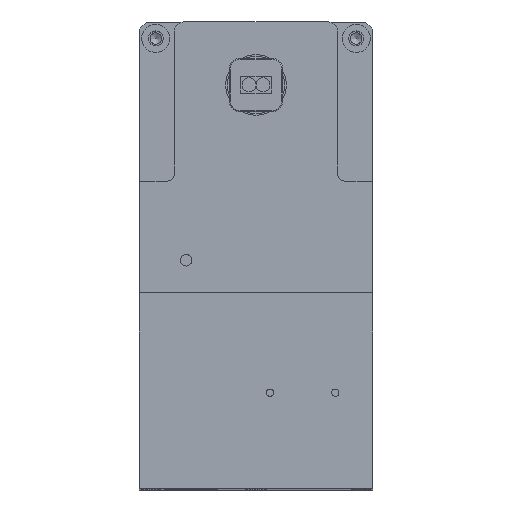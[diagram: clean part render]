
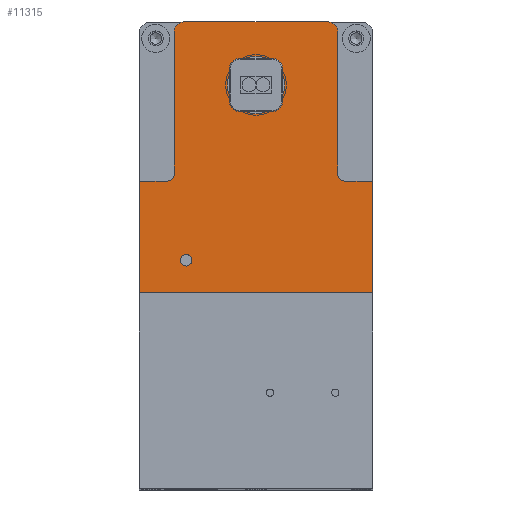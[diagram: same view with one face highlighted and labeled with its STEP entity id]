
A CAD part, top view. The second image highlights one B-rep face of the part: STEP entity #11315.
In plain terms, the highlighted planar face has unit normal (0, 0, 1) as drawn and (0, 0, -1) by its records, which use the part's own axes.
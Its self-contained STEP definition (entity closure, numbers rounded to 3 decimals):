
#10524=CARTESIAN_POINT('',(38.77,-51.11,-45.0));
#10525=VERTEX_POINT('',#10524);
#10526=CARTESIAN_POINT('',(40.0,-51.11,-45.0));
#10527=DIRECTION('',(0.0,0.0,1.0));
#10528=DIRECTION('',(-1.0,0.0,0.0));
#10529=AXIS2_PLACEMENT_3D('',#10526,#10527,#10528);
#10530=CIRCLE('',#10529,1.23);
#10531=EDGE_CURVE('',#10525,#10525,#10530,.T.);
#10775=CARTESIAN_POINT('',(0.0,-34.11,-45.0));
#10776=VERTEX_POINT('',#10775);
#10783=CARTESIAN_POINT('',(0.,-58.11,-45.0));
#10784=VERTEX_POINT('',#10783);
#10785=CARTESIAN_POINT('',(0.0,-34.11,-45.0));
#10786=DIRECTION('',(0.0,-1.0,0.0));
#10787=VECTOR('',#10786,24.0);
#10788=LINE('',#10785,#10787);
#10789=EDGE_CURVE('',#10776,#10784,#10788,.T.);
#10854=CARTESIAN_POINT('',(9.5,0.0,-45.0));
#10855=VERTEX_POINT('',#10854);
#10893=CARTESIAN_POINT('',(40.5,0.0,-45.0));
#10894=VERTEX_POINT('',#10893);
#10901=CARTESIAN_POINT('',(40.5,0.0,-45.0));
#10902=DIRECTION('',(-1.0,0.0,0.0));
#10903=VECTOR('',#10902,31.);
#10904=LINE('',#10901,#10903);
#10905=EDGE_CURVE('',#10894,#10855,#10904,.T.);
#10946=CARTESIAN_POINT('',(50.0,-34.11,-45.0));
#10947=VERTEX_POINT('',#10946);
#10971=CARTESIAN_POINT('',(50.0,-58.11,-45.0));
#10972=VERTEX_POINT('',#10971);
#10979=CARTESIAN_POINT('',(50.0,-58.11,-45.0));
#10980=DIRECTION('',(0.0,1.0,0.0));
#10981=VECTOR('',#10980,24.0);
#10982=LINE('',#10979,#10981);
#10983=EDGE_CURVE('',#10972,#10947,#10982,.T.);
#11017=CARTESIAN_POINT('',(0.,-58.11,-45.0));
#11018=DIRECTION('',(1.0,0.0,0.0));
#11019=VECTOR('',#11018,50.);
#11020=LINE('',#11017,#11019);
#11021=EDGE_CURVE('',#10784,#10972,#11020,.T.);
#11206=CARTESIAN_POINT('',(7.5,-2.,-45.0));
#11207=VERTEX_POINT('',#11206);
#11208=CARTESIAN_POINT('',(9.5,-2.0,-45.0));
#11209=DIRECTION('',(0.0,0.0,1.0));
#11210=DIRECTION('',(-0.707,0.707,0.0));
#11211=AXIS2_PLACEMENT_3D('',#11208,#11209,#11210);
#11212=CIRCLE('',#11211,2.);
#11213=EDGE_CURVE('',#10855,#11207,#11212,.T.);
#11234=CARTESIAN_POINT('',(25.0,-29.055,-45.0));
#11235=DIRECTION('',(0.0,0.0,1.0));
#11236=DIRECTION('',(1.0,0.0,0.0));
#11237=AXIS2_PLACEMENT_3D('',#11234,#11235,#11236);
#11238=PLANE('',#11237);
#11239=ORIENTED_EDGE('',*,*,#11213,.F.);
#11240=ORIENTED_EDGE('',*,*,#10905,.F.);
#11241=CARTESIAN_POINT('',(42.5,-2.,-45.0));
#11242=VERTEX_POINT('',#11241);
#11243=CARTESIAN_POINT('',(40.5,-2.,-45.0));
#11244=DIRECTION('',(0.0,0.0,1.0));
#11245=DIRECTION('',(0.707,0.707,0.0));
#11246=AXIS2_PLACEMENT_3D('',#11243,#11244,#11245);
#11247=CIRCLE('',#11246,2.);
#11248=EDGE_CURVE('',#11242,#10894,#11247,.T.);
#11249=ORIENTED_EDGE('',*,*,#11248,.F.);
#11250=CARTESIAN_POINT('',(42.5,-32.61,-45.0));
#11251=VERTEX_POINT('',#11250);
#11252=CARTESIAN_POINT('',(42.5,-2.,-45.0));
#11253=DIRECTION('',(0.0,-1.0,0.0));
#11254=VECTOR('',#11253,30.61);
#11255=LINE('',#11252,#11254);
#11256=EDGE_CURVE('',#11242,#11251,#11255,.T.);
#11257=ORIENTED_EDGE('',*,*,#11256,.T.);
#11258=CARTESIAN_POINT('',(44.0,-34.11,-45.0));
#11259=VERTEX_POINT('',#11258);
#11260=CARTESIAN_POINT('',(44.0,-32.61,-45.0));
#11261=DIRECTION('',(0.0,0.0,-1.));
#11262=DIRECTION('',(-0.707,-0.707,0.0));
#11263=AXIS2_PLACEMENT_3D('',#11260,#11261,#11262);
#11264=CIRCLE('',#11263,1.5);
#11265=EDGE_CURVE('',#11259,#11251,#11264,.T.);
#11266=ORIENTED_EDGE('',*,*,#11265,.F.);
#11267=CARTESIAN_POINT('',(44.0,-34.11,-45.0));
#11268=DIRECTION('',(1.0,0.0,0.0));
#11269=VECTOR('',#11268,6.0);
#11270=LINE('',#11267,#11269);
#11271=EDGE_CURVE('',#11259,#10947,#11270,.T.);
#11272=ORIENTED_EDGE('',*,*,#11271,.T.);
#11273=ORIENTED_EDGE('',*,*,#10983,.F.);
#11274=ORIENTED_EDGE('',*,*,#11021,.F.);
#11275=ORIENTED_EDGE('',*,*,#10789,.F.);
#11276=CARTESIAN_POINT('',(6.,-34.11,-45.0));
#11277=VERTEX_POINT('',#11276);
#11278=CARTESIAN_POINT('',(0.0,-34.11,-45.0));
#11279=DIRECTION('',(1.0,0.0,0.0));
#11280=VECTOR('',#11279,6.);
#11281=LINE('',#11278,#11280);
#11282=EDGE_CURVE('',#10776,#11277,#11281,.T.);
#11283=ORIENTED_EDGE('',*,*,#11282,.T.);
#11284=CARTESIAN_POINT('',(7.5,-32.61,-45.0));
#11285=VERTEX_POINT('',#11284);
#11286=CARTESIAN_POINT('',(6.,-32.61,-45.0));
#11287=DIRECTION('',(0.0,0.0,-1.0));
#11288=DIRECTION('',(0.707,-0.707,0.0));
#11289=AXIS2_PLACEMENT_3D('',#11286,#11287,#11288);
#11290=CIRCLE('',#11289,1.5);
#11291=EDGE_CURVE('',#11285,#11277,#11290,.T.);
#11292=ORIENTED_EDGE('',*,*,#11291,.F.);
#11293=CARTESIAN_POINT('',(7.5,-32.61,-45.0));
#11294=DIRECTION('',(0.0,1.0,0.0));
#11295=VECTOR('',#11294,30.61);
#11296=LINE('',#11293,#11295);
#11297=EDGE_CURVE('',#11285,#11207,#11296,.T.);
#11298=ORIENTED_EDGE('',*,*,#11297,.T.);
#11299=EDGE_LOOP('',(#11239,#11240,#11249,#11257,#11266,#11272,#11273,#11274,#11275,#11283,#11292,#11298));
#11300=FACE_OUTER_BOUND('',#11299,.T.);
#11301=ORIENTED_EDGE('',*,*,#10531,.T.);
#11302=EDGE_LOOP('',(#11301));
#11303=FACE_BOUND('',#11302,.T.);
#11304=CARTESIAN_POINT('',(18.85,-13.5,-45.0));
#11305=VERTEX_POINT('',#11304);
#11306=CARTESIAN_POINT('',(25.0,-13.5,-45.0));
#11307=DIRECTION('',(0.0,0.0,1.0));
#11308=DIRECTION('',(1.0,0.0,0.0));
#11309=AXIS2_PLACEMENT_3D('',#11306,#11307,#11308);
#11310=CIRCLE('',#11309,6.15);
#11311=EDGE_CURVE('',#11305,#11305,#11310,.T.);
#11312=ORIENTED_EDGE('',*,*,#11311,.T.);
#11313=EDGE_LOOP('',(#11312));
#11314=FACE_BOUND('',#11313,.T.);
#11315=ADVANCED_FACE('',(#11300,#11303,#11314),#11238,.F.);
